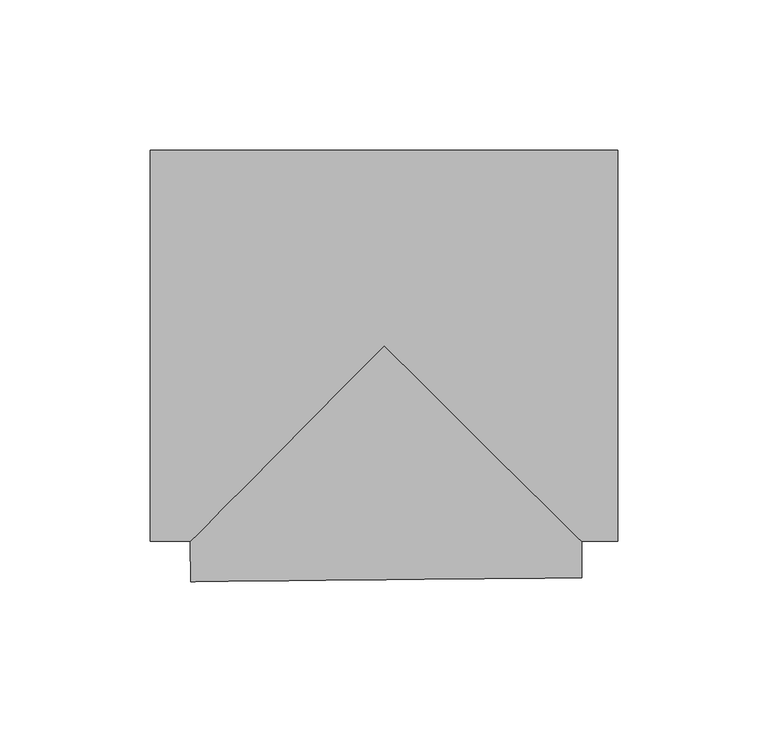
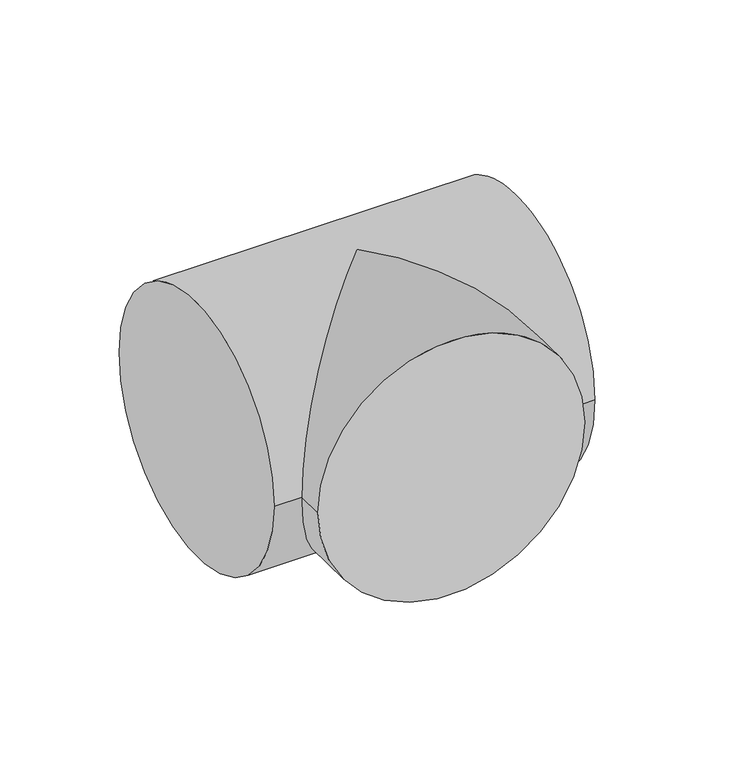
"""IFC4 building model written with IfcOpenShell, lengths in millimetres: pipe fitting geometry, M_Te - Genérica : Estándar."""

from ifc_helpers import new_model, si_unit, frame, origin, place, context, project, spatial, circle_curve, ellipse_curve, source, transform, mapped, element, save
from ifc_brep_helpers import plane_surface, cylinder_surface, advanced_brep


def pipe_fitting_039a75b6(model_context):
    return source(origin(), model_context, "Body", "AdvancedBrep", [
        advanced_brep(
        [(-77.7875, -65.0875, 0.0), (-77.7875, 65.0875, 0.0), (77.7875, -65.0875, 0.0), (77.7875, 65.0875, 0.0), (-64.4398793, -65.0875, 0.0), (0.0, 0.0, 65.0875), (65.7416293, -65.0875, 0.0), (0.0, 0.0, -65.0875), (-64.3064098, -78.4344534, 0.0), (65.862082, -77.1327685, 0.0)],
        [
            (0, 1, circle_curve(frame((-77.7875, 0.0, 0.0), z_axis=(-1.0, 0.0, 0.0), x_axis=(0.0, 1.0, 0.0)), 65.0875)),
            (1, 0, circle_curve(frame((-77.7875, 0.0, 0.0), z_axis=(-1.0, 0.0, 0.0), x_axis=(0.0, 1.0, 0.0)), 65.0875)),
            (2, 3, circle_curve(frame((77.7875, 0.0, 0.0), z_axis=(1.0, 0.0, 0.0), x_axis=(0.0, 1.0, 0.0)), 65.0875)),
            (3, 2, circle_curve(frame((77.7875, 0.0, 0.0), z_axis=(1.0, 0.0, 0.0), x_axis=(0.0, 1.0, 0.0)), 65.0875)),
            (0, 4),
            (4, 5, ellipse_curve(frame((0.0, 0.0, 0.0), z_axis=(-0.7106333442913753, 0.7035625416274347, 0.0), x_axis=(-0.7035625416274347, -0.7106333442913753, 0.0)), 91.5908331, 65.0875)),
            (5, 6, ellipse_curve(frame((0.0, 0.0, 0.0), z_axis=(0.7035625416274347, 0.7106333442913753, 0.0), x_axis=(-0.7106333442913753, 0.7035625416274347, 0.0)), 92.5113208, 65.0875)),
            (6, 2),
            (3, 1),
            (6, 7, ellipse_curve(frame((0.0, 0.0, 0.0), z_axis=(0.7035625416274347, 0.7106333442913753, 0.0), x_axis=(-0.7106333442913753, 0.7035625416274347, 0.0)), 92.5113208, 65.0875)),
            (7, 4, ellipse_curve(frame((0.0, 0.0, 0.0), z_axis=(-0.7106333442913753, 0.7035625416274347, 0.0), x_axis=(-0.7035625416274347, -0.7106333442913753, 0.0)), 91.5908331, 65.0875)),
            (8, 9, circle_curve(frame((0.7778361, -77.7836109, 0.0), z_axis=(0.009999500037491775, -0.9999500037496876, 0.0), x_axis=(0.9999500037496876, 0.009999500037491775, 0.0)), 65.0875)),
            (9, 8, circle_curve(frame((0.7778361, -77.7836109, 0.0), z_axis=(0.009999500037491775, -0.9999500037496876, 0.0), x_axis=(0.9999500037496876, 0.009999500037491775, 0.0)), 65.0875)),
            (9, 6),
            (4, 8),
        ],
        [
            plane_surface(frame((-77.7875, 0.0, 0.0), z_axis=(-1.0, 0.0, 0.0), x_axis=(0.0, 0.0, 1.0))),
            plane_surface(frame((77.7875, 0.0, 0.0), z_axis=(1.0, 0.0, 0.0), x_axis=(0.0, 0.0, 1.0))),
            cylinder_surface(frame((-77.7875, 0.0, 0.0), z_axis=(-1.0, 0.0, 0.0), x_axis=(0.0, 1.0, 0.0)), 65.0875),
            plane_surface(frame((0.7778361, -77.7836109, 0.0), z_axis=(0.009999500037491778, -0.9999500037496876, 0.0), x_axis=(0.0, 0.0, 1.0))),
            cylinder_surface(frame((0.0, 0.0, 0.0), z_axis=(-0.009999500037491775, 0.9999500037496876, 0.0), x_axis=(0.9999500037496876, 0.009999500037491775, 0.0)), 65.0875),
        ],
        [
            (0, [[1, 2]]),
            (1, [[3, 4]]),
            (2, [[-1, 5, 6, 7, 8, -4, 9]]),
            (2, [[-2, -9, -3, -8, 10, 11, -5]]),
            (3, [[12, 13]]),
            (4, [[-13, 14, -7, -6, 15]]),
            (4, [[-12, -15, -11, -10, -14]]),
        ],
    ),
    ])


if __name__ == "__main__":
    model = new_model("IFC4")
    model_context = context("Model", 3, world=origin())
    ifc_project = project(units=[si_unit("LENGTHUNIT", "METRE", prefix="MILLI")], contexts=[model_context])
    site = spatial("IfcSite", under=ifc_project)
    building = spatial("IfcBuilding", under=site)
    placement = place(None, origin())
    pipe_fitting_shape = pipe_fitting_039a75b6(model_context)
    element("IfcPipeFitting", 1, ObjectType="M_Te - Genérica : Estándar", at=placement, inside=building, context=model_context, shape_type="MappedRepresentation", body=[
        mapped(pipe_fitting_shape, transform((0.0, 0.0, 0.0), x_axis=(1.0, 0.0, 0.0), y_axis=(0.0, 1.0, 0.0), z_axis=(0.0, 0.0, 1.0))),
    ])
    save(model, "model.ifc")
